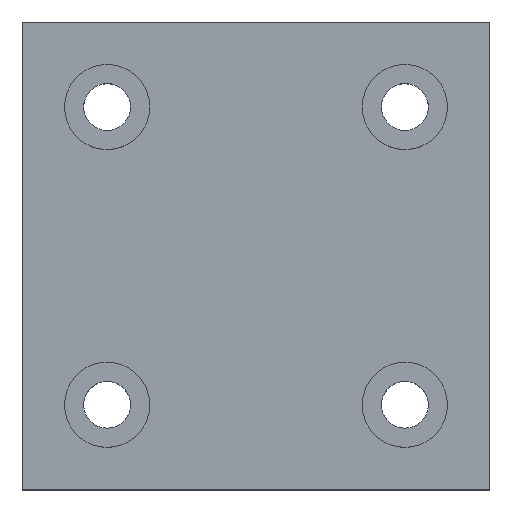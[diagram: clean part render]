
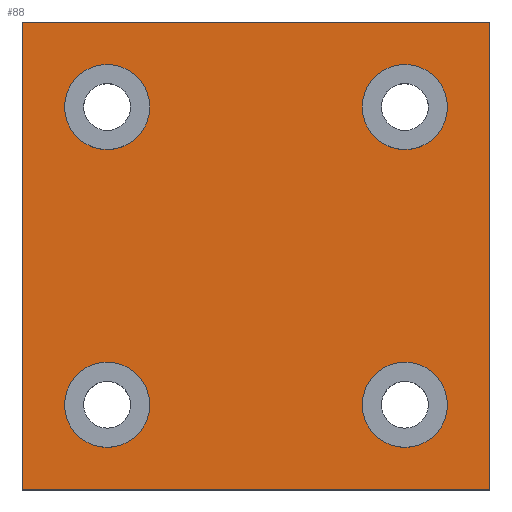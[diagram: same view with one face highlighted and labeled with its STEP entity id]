
A CAD part, top view. The second image highlights one B-rep face of the part: STEP entity #88.
In plain terms, the highlighted planar face has unit normal (0, 0, 1).
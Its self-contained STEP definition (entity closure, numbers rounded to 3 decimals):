
#24 = VERTEX_POINT('',#25);
#25 = CARTESIAN_POINT('',(-11.,6.5,132.4));
#40 = VERTEX_POINT('',#41);
#41 = CARTESIAN_POINT('',(-11.,28.5,132.4));
#47 = EDGE_CURVE('',#24,#40,#48,.T.);
#48 = LINE('',#49,#50);
#49 = CARTESIAN_POINT('',(-11.,6.5,132.4));
#50 = VECTOR('',#51,1.);
#51 = DIRECTION('',(0.,1.,0.));
#70 = EDGE_CURVE('',#24,#71,#73,.T.);
#71 = VERTEX_POINT('',#72);
#72 = CARTESIAN_POINT('',(11.,6.5,132.4));
#73 = LINE('',#74,#75);
#74 = CARTESIAN_POINT('',(-11.,6.5,132.4));
#75 = VECTOR('',#76,1.);
#76 = DIRECTION('',(1.,0.,0.));
#88 = ADVANCED_FACE('',(#89,#107,#118,#129,#140),#151,.T.);
#89 = FACE_BOUND('',#90,.T.);
#90 = EDGE_LOOP('',(#91,#92,#93,#101));
#91 = ORIENTED_EDGE('',*,*,#47,.F.);
#92 = ORIENTED_EDGE('',*,*,#70,.T.);
#93 = ORIENTED_EDGE('',*,*,#94,.T.);
#94 = EDGE_CURVE('',#71,#95,#97,.T.);
#95 = VERTEX_POINT('',#96);
#96 = CARTESIAN_POINT('',(11.,28.5,132.4));
#97 = LINE('',#98,#99);
#98 = CARTESIAN_POINT('',(11.,6.5,132.4));
#99 = VECTOR('',#100,1.);
#100 = DIRECTION('',(0.,1.,0.));
#101 = ORIENTED_EDGE('',*,*,#102,.F.);
#102 = EDGE_CURVE('',#40,#95,#103,.T.);
#103 = LINE('',#104,#105);
#104 = CARTESIAN_POINT('',(-11.,28.5,132.4));
#105 = VECTOR('',#106,1.);
#106 = DIRECTION('',(1.,0.,0.));
#107 = FACE_BOUND('',#108,.T.);
#108 = EDGE_LOOP('',(#109));
#109 = ORIENTED_EDGE('',*,*,#110,.F.);
#110 = EDGE_CURVE('',#111,#111,#113,.T.);
#111 = VERTEX_POINT('',#112);
#112 = CARTESIAN_POINT('',(-5.,10.5,132.4));
#113 = CIRCLE('',#114,2.);
#114 = AXIS2_PLACEMENT_3D('',#115,#116,#117);
#115 = CARTESIAN_POINT('',(-7.,10.5,132.4));
#116 = DIRECTION('',(0.,0.,1.));
#117 = DIRECTION('',(1.,0.,0.));
#118 = FACE_BOUND('',#119,.T.);
#119 = EDGE_LOOP('',(#120));
#120 = ORIENTED_EDGE('',*,*,#121,.F.);
#121 = EDGE_CURVE('',#122,#122,#124,.T.);
#122 = VERTEX_POINT('',#123);
#123 = CARTESIAN_POINT('',(9.,10.5,132.4));
#124 = CIRCLE('',#125,2.);
#125 = AXIS2_PLACEMENT_3D('',#126,#127,#128);
#126 = CARTESIAN_POINT('',(7.,10.5,132.4));
#127 = DIRECTION('',(0.,0.,1.));
#128 = DIRECTION('',(1.,0.,0.));
#129 = FACE_BOUND('',#130,.T.);
#130 = EDGE_LOOP('',(#131));
#131 = ORIENTED_EDGE('',*,*,#132,.F.);
#132 = EDGE_CURVE('',#133,#133,#135,.T.);
#133 = VERTEX_POINT('',#134);
#134 = CARTESIAN_POINT('',(-5.,24.5,132.4));
#135 = CIRCLE('',#136,2.);
#136 = AXIS2_PLACEMENT_3D('',#137,#138,#139);
#137 = CARTESIAN_POINT('',(-7.,24.5,132.4));
#138 = DIRECTION('',(0.,0.,1.));
#139 = DIRECTION('',(1.,0.,0.));
#140 = FACE_BOUND('',#141,.T.);
#141 = EDGE_LOOP('',(#142));
#142 = ORIENTED_EDGE('',*,*,#143,.F.);
#143 = EDGE_CURVE('',#144,#144,#146,.T.);
#144 = VERTEX_POINT('',#145);
#145 = CARTESIAN_POINT('',(9.,24.5,132.4));
#146 = CIRCLE('',#147,2.);
#147 = AXIS2_PLACEMENT_3D('',#148,#149,#150);
#148 = CARTESIAN_POINT('',(7.,24.5,132.4));
#149 = DIRECTION('',(0.,0.,1.));
#150 = DIRECTION('',(1.,0.,0.));
#151 = PLANE('',#152);
#152 = AXIS2_PLACEMENT_3D('',#153,#154,#155);
#153 = CARTESIAN_POINT('',(-11.,6.5,132.4));
#154 = DIRECTION('',(0.,0.,1.));
#155 = DIRECTION('',(1.,0.,0.));
